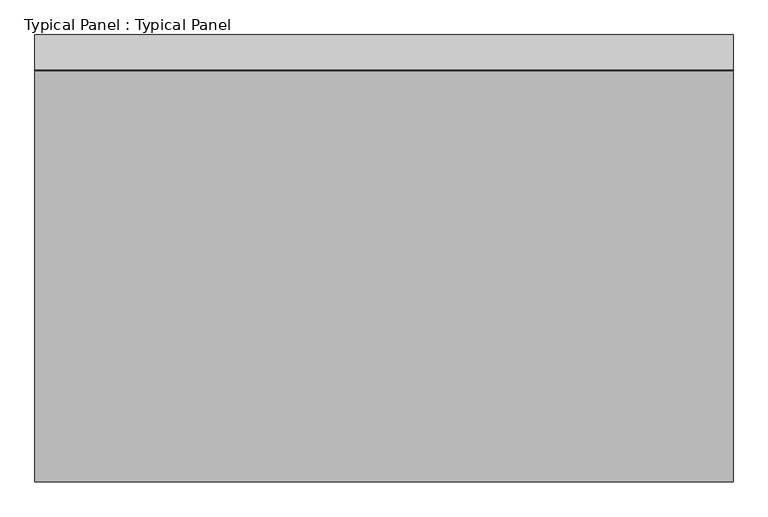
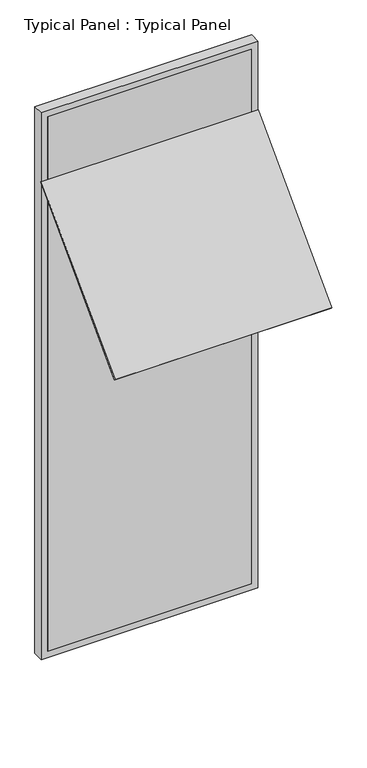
"""IFC4 building model written with IfcOpenShell, lengths in millimetres: plate geometry, Typical Panel : Typical Panel."""

from ifc_helpers import new_model, si_unit, frame, origin, place, context, project, spatial, polyline, outline, extrude, source, transform, mapped, element, save


def typical_panel_typical_panel_007911d2(model_context):
    return source(origin(), model_context, "Body", "SweptSolid", [
        extrude(outline(polyline([(0.0, -10.0), (0.0, 0.0), (1500.0, 0.0), (1500.0, -10.0), (0.0, -10.0)])), frame((750.0, -887.2161305, 2586.4384536), z_axis=(0.0, 0.6946583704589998, 0.7193398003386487), x_axis=(-1.0, 0.0, 0.0)), (0.0, 0.0, 1.0), 1270.0),
        extrude(outline(polyline([(0.0, -750.0), (0.0, 750.0), (4000.0, 750.0), (4000.0, -750.0), (0.0, -750.0)]), holes=[polyline([(45.0, 705.0), (45.0, -705.0), (3955.0, -705.0), (3955.0, 705.0), (45.0, 705.0)])]), frame((0.0, -1.5797986, 0.0), z_axis=(0.0, 1.0, 0.0), x_axis=(0.0, 0.0, 1.0)), (0.0, 0.0, 1.0), 75.0),
        extrude(outline(polyline([(705.0, -1.5797986), (-705.0, -1.5797986), (-705.0, 13.4202014), (705.0, 13.4202014), (705.0, -1.5797986)])), frame((0.0, 0.0, 45.0), z_axis=(0.0, 0.0, 1.0), x_axis=(1.0, 0.0, 0.0)), (0.0, 0.0, 1.0), 3910.0),
    ])


if __name__ == "__main__":
    model = new_model("IFC4")
    model_context = context("Model", 3, world=origin())
    ifc_project = project(units=[si_unit("LENGTHUNIT", "METRE", prefix="MILLI")], contexts=[model_context])
    site = spatial("IfcSite", under=ifc_project)
    building = spatial("IfcBuilding", under=site)
    placement = place(None, origin())
    typical_panel_typical_panel_shape = typical_panel_typical_panel_007911d2(model_context)
    element("IfcPlate", 1, ObjectType="Typical Panel : Typical Panel", at=placement, inside=building, context=model_context, shape_type="MappedRepresentation", body=[
        mapped(typical_panel_typical_panel_shape, transform((0.0, 0.0, 0.0), x_axis=(1.0, 0.0, 0.0), y_axis=(0.0, 1.0, 0.0), z_axis=(0.0, 0.0, 1.0))),
    ])
    save(model, "model.ifc")
